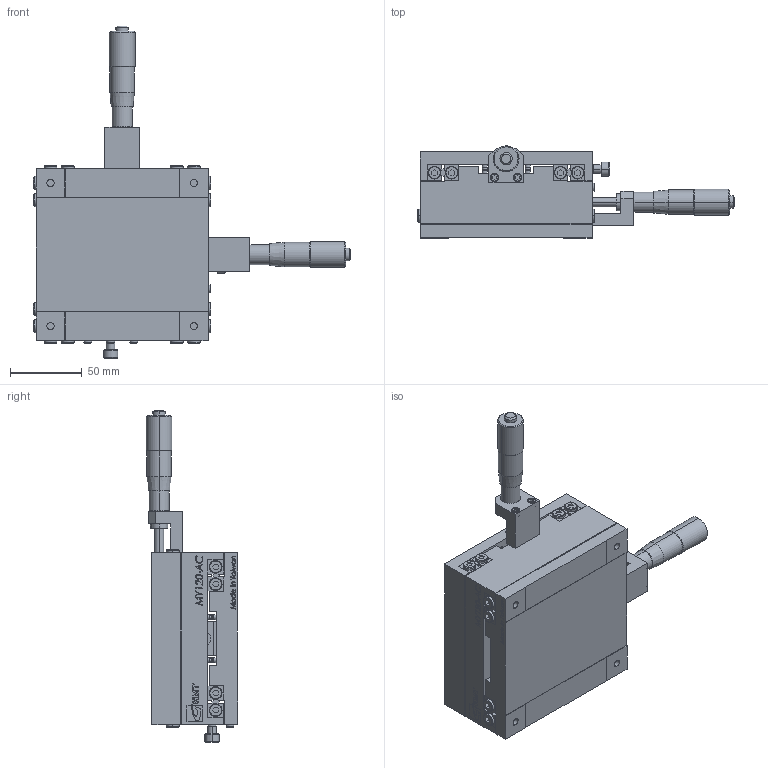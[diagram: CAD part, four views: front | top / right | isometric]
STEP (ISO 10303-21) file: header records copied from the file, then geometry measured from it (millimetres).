
FILE_DESCRIPTION (( 'STEP AP203' ), '1' );
FILE_NAME ('MY120-AC.STEP', '2008-08-02T04:31:52', ( '陳志豪' ), ( '高明鐵企業股份有限公司' ), 'SwSTEP 2.0', 'SolidWorks 2007', '' );
FILE_SCHEMA (( 'CONFIG_CONTROL_DESIGN' ));
Length unit declared in the file: millimetre
Products named in the file (1): MY120-AC
Bounding box: 221.5 x 64 x 231.7 mm (x, y, z)
Volume: 855968.4 mm3; surface area: 202257 mm2
Topology: 24 solids, 24 shells, 1107 faces, 2738 edges, 1795 vertices
Faces by surface type: plane 675, cylinder 266, bspline 86, cone 80
Entity records: 37634 total; most frequent: CARTESIAN_POINT 11151, ORIENTED_EDGE 5476, DIRECTION 5237, EDGE_CURVE 2738, VECTOR 1939, LINE 1939, VERTEX_POINT 1795, AXIS2_PLACEMENT_3D 1649
